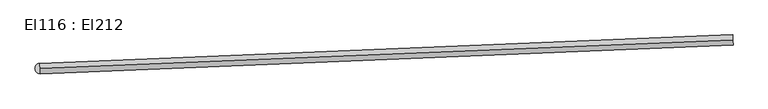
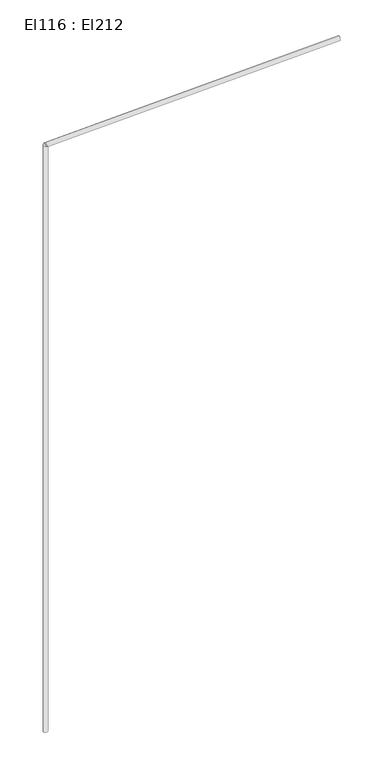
"""IFC4 building model written with IfcOpenShell, lengths in millimetres: cable carrier segment geometry, El116 : El212."""

from ifc_helpers import new_model, si_unit, point, frame, frame_2d, origin, place, context, project, spatial, circle_curve, trimmed, segment, composite_curve, outline, extrude, source, transform, mapped, element, save


def el116_el212_673bda81(model_context):
    return source(origin(), model_context, "Body", "SweptSolid", [
        extrude(outline(composite_curve([segment(trimmed(circle_curve(frame_2d((2764.4746511, 16662.2093745)), 9.5), [point((2754.9746511, 16662.2093745))], [point((2773.9746511, 16662.2093745))], False, "CARTESIAN"), True, "CONTINUOUS"), segment(trimmed(circle_curve(frame_2d((2764.4746511, 16662.2093745)), 9.5), [point((2773.9746511, 16662.2093745))], [point((2754.9746511, 16662.2093745))], False, "CARTESIAN"), True, "CONTINUOUS")], self_intersect=False)), frame((0.0, 0.0, 1830.0), z_axis=(0.0, 0.0, 1.0), x_axis=(1.0, 0.0, 0.0)), (0.0, 0.0, 1.0), 2620.0),
        extrude(outline(composite_curve([segment(trimmed(circle_curve(frame_2d((0.0, -9.5)), 9.5), [point((0.0, -19.0))], [point((0.0, 0.0))], False, "CARTESIAN"), True, "CONTINUOUS"), segment(trimmed(circle_curve(frame_2d((0.0, -9.5)), 9.5), [point((0.0, 0.0))], [point((0.0, -19.0))], False, "CARTESIAN"), True, "CONTINUOUS")], self_intersect=False)), frame((2764.4770632, 16662.2093672, 4459.5), z_axis=(0.9991384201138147, 0.04150201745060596, 0.0), x_axis=(-0.04150201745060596, 0.9991384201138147, 0.0)), (0.0, 0.0, 1.0), 1272.56),
    ])


if __name__ == "__main__":
    model = new_model("IFC4")
    model_context = context("Model", 3, world=origin())
    ifc_project = project(units=[si_unit("LENGTHUNIT", "METRE", prefix="MILLI")], contexts=[model_context])
    site = spatial("IfcSite", under=ifc_project)
    building = spatial("IfcBuilding", under=site)
    placement = place(None, origin())
    el116_el212_shape = el116_el212_673bda81(model_context)
    element("IfcCableCarrierSegment", 1, ObjectType="El116 : El212", at=placement, inside=building, context=model_context, shape_type="MappedRepresentation", body=[
        mapped(el116_el212_shape, transform((0.0, 0.0, 0.0), x_axis=(1.0, 0.0, 0.0), y_axis=(0.0, 1.0, 0.0), z_axis=(0.0, 0.0, 1.0))),
    ])
    save(model, "model.ifc")
